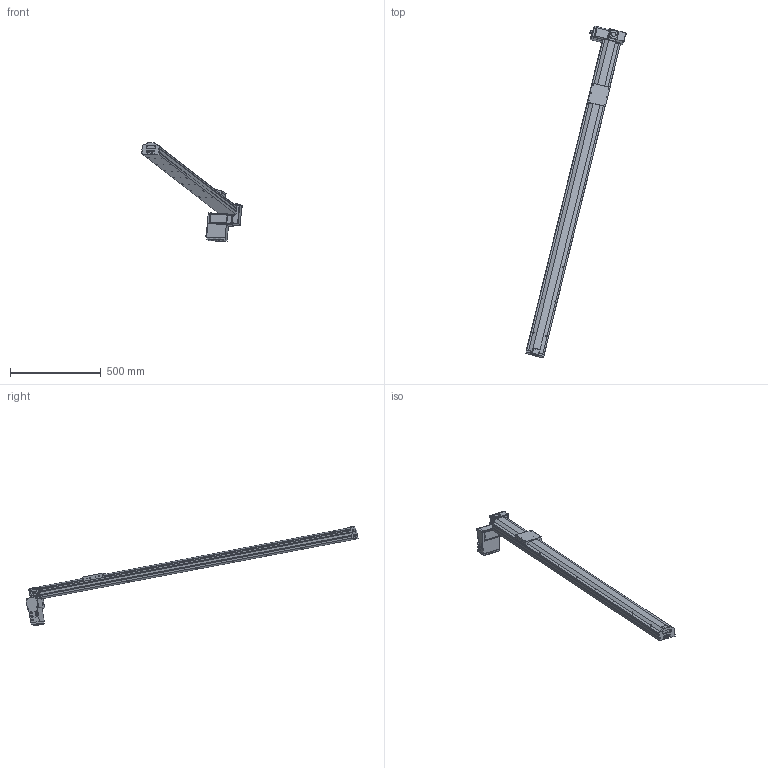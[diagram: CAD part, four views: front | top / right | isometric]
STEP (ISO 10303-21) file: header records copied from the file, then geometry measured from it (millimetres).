
FILE_DESCRIPTION (( 'STEP AP203' ), '1' );
FILE_NAME ('S10 CBH LU S1800.STEP', '2012-10-01T07:02:18', ( '' ), ( '' ), 'SwSTEP 2.0', 'SolidWorks 2010', '' );
FILE_SCHEMA (( 'CONFIG_CONTROL_DESIGN' ));
Length unit declared in the file: millimetre
Products named in the file (14): Plaque racord_Default; renvoi LH_Default; embout; palette tbh; S10 CBH LU S1800; plaque de bout s10_Default; cache t皻e axe_Default; cache t皻e_Default; Vis M5 L16-2_Default_1; vis M5 L12_Default; Cvis M5 L30_Default; vis M5 L5_Default; MOTEUR GMI 61 ; axe 1800
Assembly tree (24 placements, depth 2):
  S10 CBH LU S1800
    Vis M5 L16-2_Default_1  x4
    plaque de bout s10_Default
    Cvis M5 L30_Default  x2
    vis M5 L5_Default  x4
    cache t皻e axe_Default
    Plaque racord_Default
    palette tbh
    cache t皻e_Default  x2
    vis M5 L12_Default  x4
    axe 1800
    MOTEUR GMI 61 
    embout
    renvoi LH_Default
Bounding box: 556.92 x 1833.74 x 546.86 mm (x, y, z)
Volume: 10510955.4 mm3; surface area: 1065971.4 mm2
Topology: 24 solids, 24 shells, 1091 faces, 2656 edges, 1646 vertices
Faces by surface type: plane 542, cylinder 400, cone 102, bspline 40, torus 7
Entity records: 27523 total; most frequent: CARTESIAN_POINT 5134, DIRECTION 4431, ORIENTED_EDGE 4128, EDGE_CURVE 2064, AXIS2_PLACEMENT_3D 1577, VERTEX_POINT 1334, VECTOR 1277, LINE 1277
